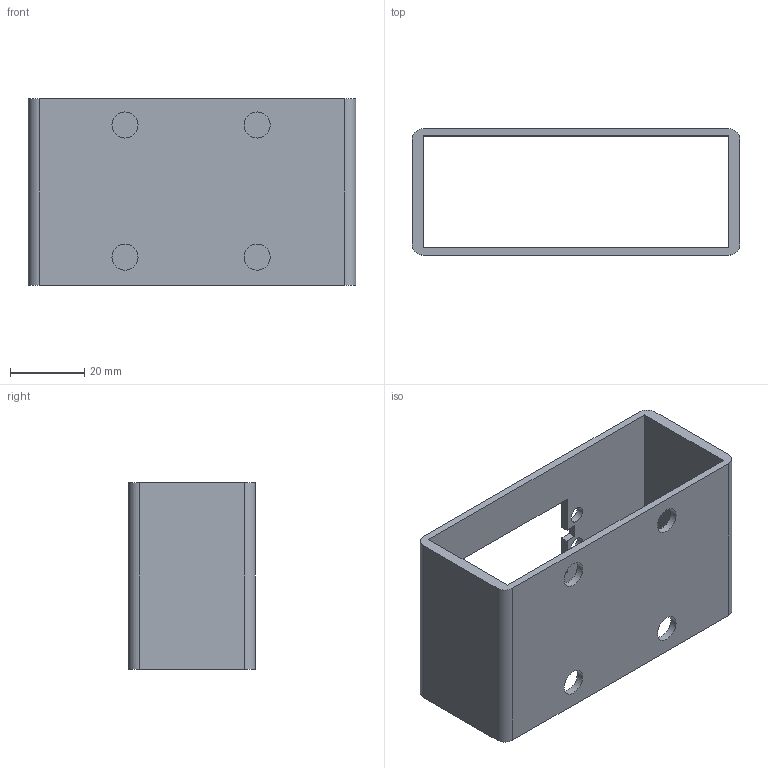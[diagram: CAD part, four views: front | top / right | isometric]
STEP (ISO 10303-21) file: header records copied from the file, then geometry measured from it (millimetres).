
FILE_DESCRIPTION(/* description */ ('STEP AP242 Edition 2','CAx-IF Rec.Pracs.---Representation and Presentation of Product Manufacturing Information (PMI)---4.0---2014-10-13','CAx-IF Rec.Pracs.---3D Tessellated Geometry---0.4---2014-09-14','2;1','CAx-IF Rec.Pracs.---User Defined Attributes---1.5---2016-08-15'),/* implementation_level */ '2;1');
FILE_NAME(/* name */ 'Assembly 1 - Part 5',/* time_stamp */ '2026-08-25T12:56:07Z',/* author */ (''),/* organization */ (''),/* preprocessor_version */ 'ST-DEVELOPER v20',/* originating_system */ 'ONSHAPE BY PTC INC, 1.219',/* authorisation */ ' ');
FILE_SCHEMA (('AP242_MANAGED_MODEL_BASED_3D_ENGINEERING_MIM_LF { 1 0 10303 442 3 1 4 }'));
Length unit declared in the file: metre
Products named in the file (1): Part 5
Bounding box: 88 x 34 x 50 mm (x, y, z)
Volume: 23683.7 mm3; surface area: 22237 mm2
Topology: 1 solids, 1 shells, 34 faces, 96 edges, 64 vertices
Faces by surface type: plane 22, cylinder 12
Full cylindrical faces by diameter (mm): 4.3 x4, 7 x4
Entity records: 1126 total; most frequent: CARTESIAN_POINT 187, DIRECTION 182, ORIENTED_EDGE 176, EDGE_CURVE 88, VERTEX_POINT 64, LINE 64, VECTOR 64, EDGE_LOOP 62
